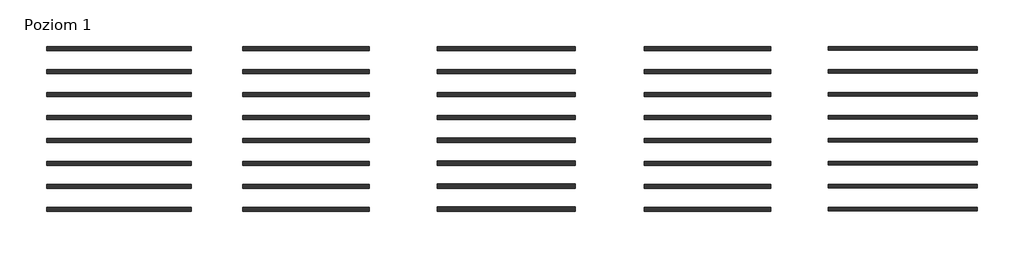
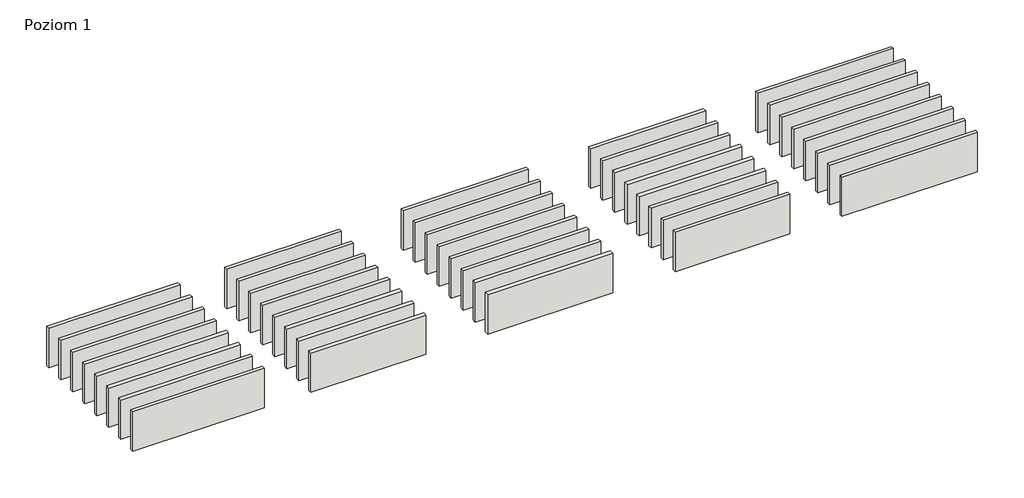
# One storey: 40 walls.
"""IFC4 building model written with IfcOpenShell, lengths in millimetres."""

from ifc_helpers import new_model, si_unit, origin, origin_with_axes, place, context, project, spatial, polyline, outline, extrude, element, save

model = new_model("IFC4")

# Units and contexts
model_context = context("Model", 3, world=origin())
ifc_project = project(units=[si_unit("LENGTHUNIT", "METRE", prefix="MILLI")], contexts=[model_context])

# Site, building, storey
site = spatial("IfcSite", under=ifc_project)
building = spatial("IfcBuilding", under=site)
storey = spatial("IfcBuildingStorey", under=building, Name="Poziom 1", Elevation=0.0)

# Walls
placement = place(None, origin())
element("IfcWall", 1, ObjectType="ISOVER.FW.Multimax30_0,030.BETON", at=placement, inside=storey, context=model_context, shape_type="SweptSolid", body=[
    extrude(outline(polyline([(11646.8241182, 200.8405793), (646.8241182, 200.8405793), (646.8241182, 553.8405793), (11646.8241182, 553.8405793), (11646.8241182, 200.8405793)])), origin_with_axes(), (0.0, 0.0, 1.0), 4000.0),
])
element("IfcWall", 2, ObjectType="ISOVER.FW.Multimax30_0,030.CERAM", at=placement, inside=storey, context=model_context, shape_type="SweptSolid", body=[
    extrude(outline(polyline([(29574.3183088, 195.8405793), (17574.3183088, 195.8405793), (17574.3183088, 558.8405793), (29574.3183088, 558.8405793), (29574.3183088, 195.8405793)])), origin_with_axes(), (0.0, 0.0, 1.0), 4000.0),
])
element("IfcWall", 3, ObjectType="ISOVER.FW.Multimax30_0,030.BETKOM", at=placement, inside=storey, context=model_context, shape_type="SweptSolid", body=[
    extrude(outline(polyline([(-3825.6816912, 200.8405793), (-16425.6816912, 200.8405793), (-16425.6816912, 553.8405793), (-3825.6816912, 553.8405793), (-3825.6816912, 200.8405793)])), origin_with_axes(), (0.0, 0.0, 1.0), 4000.0),
])
element("IfcWall", 4, ObjectType="ISOVER.FW.Multimax30_0,030.SILIKAT", at=placement, inside=storey, context=model_context, shape_type="SweptSolid", body=[
    extrude(outline(polyline([(46574.3183088, 200.8405793), (35574.3183088, 200.8405793), (35574.3183088, 553.8405793), (46574.3183088, 553.8405793), (46574.3183088, 200.8405793)])), origin_with_axes(), (0.0, 0.0, 1.0), 4000.0),
])
element("IfcWall", 5, ObjectType="ISOVER.FW.Multimax30_0,030.ŻELBET", at=placement, inside=storey, context=model_context, shape_type="SweptSolid", body=[
    extrude(outline(polyline([(64574.3183088, 220.8405793), (51574.3183088, 220.8405793), (51574.3183088, 533.8405793), (64574.3183088, 533.8405793), (64574.3183088, 220.8405793)])), origin_with_axes(), (0.0, 0.0, 1.0), 4000.0),
])
element("IfcWall", 6, ObjectType="ISOVER.FW.Panel-PłytaPlus_0,035.BETKOM", at=placement, inside=storey, context=model_context, shape_type="SweptSolid", body=[
    extrude(outline(polyline([(-3825.6816912, -1799.1594207), (-16425.6816912, -1799.1594207), (-16425.6816912, -1446.1594207), (-3825.6816912, -1446.1594207), (-3825.6816912, -1799.1594207)])), origin_with_axes(), (0.0, 0.0, 1.0), 4000.0),
])
element("IfcWall", 7, ObjectType="ISOVER.FW.Panel-PłytaPlus_0,035.BETON", at=placement, inside=storey, context=model_context, shape_type="SweptSolid", body=[
    extrude(outline(polyline([(11646.8241182, -1799.1594207), (646.8241182, -1799.1594207), (646.8241182, -1446.1594207), (11646.8241182, -1446.1594207), (11646.8241182, -1799.1594207)])), origin_with_axes(), (0.0, 0.0, 1.0), 4000.0),
])
element("IfcWall", 8, ObjectType="ISOVER.FW.Panel-PłytaPlus_0,035.CERAM", at=placement, inside=storey, context=model_context, shape_type="SweptSolid", body=[
    extrude(outline(polyline([(29574.3183088, -1804.1594207), (17574.3183088, -1804.1594207), (17574.3183088, -1441.1594207), (29574.3183088, -1441.1594207), (29574.3183088, -1804.1594207)])), origin_with_axes(), (0.0, 0.0, 1.0), 4000.0),
])
element("IfcWall", 9, ObjectType="ISOVER.FW.Panel-PłytaPlus_0,035.SILIKAT", at=placement, inside=storey, context=model_context, shape_type="SweptSolid", body=[
    extrude(outline(polyline([(46574.3183088, -1799.1594207), (35574.3183088, -1799.1594207), (35574.3183088, -1446.1594207), (46574.3183088, -1446.1594207), (46574.3183088, -1799.1594207)])), origin_with_axes(), (0.0, 0.0, 1.0), 4000.0),
])
element("IfcWall", 10, ObjectType="ISOVER.FW.Panel-PłytaPlus_0,035.ŻELBET", at=placement, inside=storey, context=model_context, shape_type="SweptSolid", body=[
    extrude(outline(polyline([(64574.3183088, -1779.1594207), (51574.3183088, -1779.1594207), (51574.3183088, -1466.1594207), (64574.3183088, -1466.1594207), (64574.3183088, -1779.1594207)])), origin_with_axes(), (0.0, 0.0, 1.0), 4000.0),
])
element("IfcWall", 11, ObjectType="ISOVER.FW.PoltermMax_0,038.BETKOM", at=placement, inside=storey, context=model_context, shape_type="SweptSolid", body=[
    extrude(outline(polyline([(-3825.6816912, -3799.1594207), (-16425.6816912, -3799.1594207), (-16425.6816912, -3446.1594207), (-3825.6816912, -3446.1594207), (-3825.6816912, -3799.1594207)])), origin_with_axes(), (0.0, 0.0, 1.0), 4000.0),
])
element("IfcWall", 12, ObjectType="ISOVER.FW.PoltermMax_0,038.BETON", at=placement, inside=storey, context=model_context, shape_type="SweptSolid", body=[
    extrude(outline(polyline([(11646.8241182, -3799.1594207), (646.8241182, -3799.1594207), (646.8241182, -3446.1594207), (11646.8241182, -3446.1594207), (11646.8241182, -3799.1594207)])), origin_with_axes(), (0.0, 0.0, 1.0), 4000.0),
])
element("IfcWall", 13, ObjectType="ISOVER.FW.PoltermMax_0,038.CERAM", at=placement, inside=storey, context=model_context, shape_type="SweptSolid", body=[
    extrude(outline(polyline([(29574.3183088, -3804.1594207), (17574.3183088, -3804.1594207), (17574.3183088, -3441.1594207), (29574.3183088, -3441.1594207), (29574.3183088, -3804.1594207)])), origin_with_axes(), (0.0, 0.0, 1.0), 4000.0),
])
element("IfcWall", 14, ObjectType="ISOVER.FW.PoltermMax_0,038.SILIKAT", at=placement, inside=storey, context=model_context, shape_type="SweptSolid", body=[
    extrude(outline(polyline([(46574.3183088, -3799.1594207), (35574.3183088, -3799.1594207), (35574.3183088, -3446.1594207), (46574.3183088, -3446.1594207), (46574.3183088, -3799.1594207)])), origin_with_axes(), (0.0, 0.0, 1.0), 4000.0),
])
element("IfcWall", 15, ObjectType="ISOVER.FW.PoltermMax_0,038.ŻELBET", at=placement, inside=storey, context=model_context, shape_type="SweptSolid", body=[
    extrude(outline(polyline([(64574.3183088, -3779.1594207), (51574.3183088, -3779.1594207), (51574.3183088, -3466.1594207), (64574.3183088, -3466.1594207), (64574.3183088, -3779.1594207)])), origin_with_axes(), (0.0, 0.0, 1.0), 4000.0),
])
element("IfcWall", 16, ObjectType="ISOVER.FW.PoltermMaxPlus_0,035.BETKOM", at=placement, inside=storey, context=model_context, shape_type="SweptSolid", body=[
    extrude(outline(polyline([(-3825.6816912, -5799.1594207), (-16425.6816912, -5799.1594207), (-16425.6816912, -5446.1594207), (-3825.6816912, -5446.1594207), (-3825.6816912, -5799.1594207)])), origin_with_axes(), (0.0, 0.0, 1.0), 4000.0),
])
element("IfcWall", 17, ObjectType="ISOVER.FW.PoltermMaxPlus_0,035.BETON", at=placement, inside=storey, context=model_context, shape_type="SweptSolid", body=[
    extrude(outline(polyline([(11646.8241182, -5799.1594207), (646.8241182, -5799.1594207), (646.8241182, -5446.1594207), (11646.8241182, -5446.1594207), (11646.8241182, -5799.1594207)])), origin_with_axes(), (0.0, 0.0, 1.0), 4000.0),
])
element("IfcWall", 18, ObjectType="ISOVER.FW.PoltermMaxPlus_0,035.CERAM", at=placement, inside=storey, context=model_context, shape_type="SweptSolid", body=[
    extrude(outline(polyline([(29574.3183088, -5804.1594207), (17574.3183088, -5804.1594207), (17574.3183088, -5441.1594207), (29574.3183088, -5441.1594207), (29574.3183088, -5804.1594207)])), origin_with_axes(), (0.0, 0.0, 1.0), 4000.0),
])
element("IfcWall", 19, ObjectType="ISOVER.FW.PoltermMaxPlus_0,035.SILIKAT", at=placement, inside=storey, context=model_context, shape_type="SweptSolid", body=[
    extrude(outline(polyline([(46574.3183088, -5799.1594207), (35574.3183088, -5799.1594207), (35574.3183088, -5446.1594207), (46574.3183088, -5446.1594207), (46574.3183088, -5799.1594207)])), origin_with_axes(), (0.0, 0.0, 1.0), 4000.0),
])
element("IfcWall", 20, ObjectType="ISOVER.FW.PoltermMaxPlus_0,035.ŻELBET", at=placement, inside=storey, context=model_context, shape_type="SweptSolid", body=[
    extrude(outline(polyline([(64574.3183088, -5779.1594207), (51574.3183088, -5779.1594207), (51574.3183088, -5466.1594207), (64574.3183088, -5466.1594207), (64574.3183088, -5779.1594207)])), origin_with_axes(), (0.0, 0.0, 1.0), 4000.0),
])
element("IfcWall", 21, ObjectType="ISOVER.FW.Super-Vent_0,032.BETKOM", at=placement, inside=storey, context=model_context, shape_type="SweptSolid", body=[
    extrude(outline(polyline([(-3825.6816912, -7799.1594207), (-16425.6816912, -7799.1594207), (-16425.6816912, -7446.1594207), (-3825.6816912, -7446.1594207), (-3825.6816912, -7799.1594207)])), origin_with_axes(), (0.0, 0.0, 1.0), 4000.0),
])
element("IfcWall", 22, ObjectType="ISOVER.FW.Super-Vent_0,032.BETON", at=placement, inside=storey, context=model_context, shape_type="SweptSolid", body=[
    extrude(outline(polyline([(11646.8241182, -7799.1594207), (646.8241182, -7799.1594207), (646.8241182, -7446.1594207), (11646.8241182, -7446.1594207), (11646.8241182, -7799.1594207)])), origin_with_axes(), (0.0, 0.0, 1.0), 4000.0),
])
element("IfcWall", 23, ObjectType="ISOVER.FW.Super-Vent_0,032.CERAM", at=placement, inside=storey, context=model_context, shape_type="SweptSolid", body=[
    extrude(outline(polyline([(29574.3183088, -7804.1594207), (17574.3183088, -7804.1594207), (17574.3183088, -7441.1594207), (29574.3183088, -7441.1594207), (29574.3183088, -7804.1594207)])), origin_with_axes(), (0.0, 0.0, 1.0), 4000.0),
])
element("IfcWall", 24, ObjectType="ISOVER.FW.Super-Vent_0,032.SILIKAT", at=placement, inside=storey, context=model_context, shape_type="SweptSolid", body=[
    extrude(outline(polyline([(46574.3183088, -7799.1594207), (35574.3183088, -7799.1594207), (35574.3183088, -7446.1594207), (46574.3183088, -7446.1594207), (46574.3183088, -7799.1594207)])), origin_with_axes(), (0.0, 0.0, 1.0), 4000.0),
])
element("IfcWall", 25, ObjectType="ISOVER.FW.Super-Vent_0,032.ŻELBET", at=placement, inside=storey, context=model_context, shape_type="SweptSolid", body=[
    extrude(outline(polyline([(64574.3183088, -7779.1594207), (51574.3183088, -7779.1594207), (51574.3183088, -7466.1594207), (64574.3183088, -7466.1594207), (64574.3183088, -7779.1594207)])), origin_with_axes(), (0.0, 0.0, 1.0), 4000.0),
])
element("IfcWall", 26, ObjectType="ISOVER.FW.Super-VentPlus_0,031.BETKOM", at=placement, inside=storey, context=model_context, shape_type="SweptSolid", body=[
    extrude(outline(polyline([(-3825.6816912, -9799.1594207), (-16425.6816912, -9799.1594207), (-16425.6816912, -9446.1594207), (-3825.6816912, -9446.1594207), (-3825.6816912, -9799.1594207)])), origin_with_axes(), (0.0, 0.0, 1.0), 4000.0),
])
element("IfcWall", 27, ObjectType="ISOVER.FW.Super-VentPlus_0,031.BETON", at=placement, inside=storey, context=model_context, shape_type="SweptSolid", body=[
    extrude(outline(polyline([(11646.8241182, -9799.1594207), (646.8241182, -9799.1594207), (646.8241182, -9446.1594207), (11646.8241182, -9446.1594207), (11646.8241182, -9799.1594207)])), origin_with_axes(), (0.0, 0.0, 1.0), 4000.0),
])
element("IfcWall", 28, ObjectType="ISOVER.FW.Super-VentPlus_0,031.CERAM", at=placement, inside=storey, context=model_context, shape_type="SweptSolid", body=[
    extrude(outline(polyline([(29574.3183088, -9804.1594207), (17574.3183088, -9804.1594207), (17574.3183088, -9441.1594207), (29574.3183088, -9441.1594207), (29574.3183088, -9804.1594207)])), origin_with_axes(), (0.0, 0.0, 1.0), 4000.0),
])
element("IfcWall", 29, ObjectType="ISOVER.FW.Super-VentPlus_0,031.SILIKAT", at=placement, inside=storey, context=model_context, shape_type="SweptSolid", body=[
    extrude(outline(polyline([(46574.3183088, -9799.1594207), (35574.3183088, -9799.1594207), (35574.3183088, -9446.1594207), (46574.3183088, -9446.1594207), (46574.3183088, -9799.1594207)])), origin_with_axes(), (0.0, 0.0, 1.0), 4000.0),
])
element("IfcWall", 30, ObjectType="ISOVER.FW.Super-VentPlus_0,031.ŻELBET", at=placement, inside=storey, context=model_context, shape_type="SweptSolid", body=[
    extrude(outline(polyline([(64574.3183088, -9779.1594207), (51574.3183088, -9779.1594207), (51574.3183088, -9466.1594207), (64574.3183088, -9466.1594207), (64574.3183088, -9779.1594207)])), origin_with_axes(), (0.0, 0.0, 1.0), 4000.0),
])
element("IfcWall", 31, ObjectType="ISOVER.FW.Ventiterm_0,038.BETKOM", at=placement, inside=storey, context=model_context, shape_type="SweptSolid", body=[
    extrude(outline(polyline([(-3825.6816912, -11799.1594207), (-16425.6816912, -11799.1594207), (-16425.6816912, -11446.1594207), (-3825.6816912, -11446.1594207), (-3825.6816912, -11799.1594207)])), origin_with_axes(), (0.0, 0.0, 1.0), 4000.0),
])
element("IfcWall", 32, ObjectType="ISOVER.FW.Ventiterm_0,038.BETON", at=placement, inside=storey, context=model_context, shape_type="SweptSolid", body=[
    extrude(outline(polyline([(11646.8241182, -11799.1594207), (646.8241182, -11799.1594207), (646.8241182, -11446.1594207), (11646.8241182, -11446.1594207), (11646.8241182, -11799.1594207)])), origin_with_axes(), (0.0, 0.0, 1.0), 4000.0),
])
element("IfcWall", 33, ObjectType="ISOVER.FW.Ventiterm_0,038.CERAM", at=placement, inside=storey, context=model_context, shape_type="SweptSolid", body=[
    extrude(outline(polyline([(29574.3183088, -11804.1594207), (17574.3183088, -11804.1594207), (17574.3183088, -11441.1594207), (29574.3183088, -11441.1594207), (29574.3183088, -11804.1594207)])), origin_with_axes(), (0.0, 0.0, 1.0), 4000.0),
])
element("IfcWall", 34, ObjectType="ISOVER.FW.Ventiterm_0,038.SILIKAT", at=placement, inside=storey, context=model_context, shape_type="SweptSolid", body=[
    extrude(outline(polyline([(46574.3183088, -11799.1594207), (35574.3183088, -11799.1594207), (35574.3183088, -11446.1594207), (46574.3183088, -11446.1594207), (46574.3183088, -11799.1594207)])), origin_with_axes(), (0.0, 0.0, 1.0), 4000.0),
])
element("IfcWall", 35, ObjectType="ISOVER.FW.Ventiterm_0,038.ŻELBET", at=placement, inside=storey, context=model_context, shape_type="SweptSolid", body=[
    extrude(outline(polyline([(64574.3183088, -11779.1594207), (51574.3183088, -11779.1594207), (51574.3183088, -11466.1594207), (64574.3183088, -11466.1594207), (64574.3183088, -11779.1594207)])), origin_with_axes(), (0.0, 0.0, 1.0), 4000.0),
])
element("IfcWall", 36, ObjectType="ISOVER.FW.VentitermPlus_0,036.BETKOM", at=placement, inside=storey, context=model_context, shape_type="SweptSolid", body=[
    extrude(outline(polyline([(-3825.6816912, -13799.1594207), (-16425.6816912, -13799.1594207), (-16425.6816912, -13446.1594207), (-3825.6816912, -13446.1594207), (-3825.6816912, -13799.1594207)])), origin_with_axes(), (0.0, 0.0, 1.0), 4000.0),
])
element("IfcWall", 37, ObjectType="ISOVER.FW.VentitermPlus_0,036.BETON", at=placement, inside=storey, context=model_context, shape_type="SweptSolid", body=[
    extrude(outline(polyline([(11646.8241182, -13799.1594207), (646.8241182, -13799.1594207), (646.8241182, -13446.1594207), (11646.8241182, -13446.1594207), (11646.8241182, -13799.1594207)])), origin_with_axes(), (0.0, 0.0, 1.0), 4000.0),
])
element("IfcWall", 38, ObjectType="ISOVER.FW.VentitermPlus_0,036.CERAM", at=placement, inside=storey, context=model_context, shape_type="SweptSolid", body=[
    extrude(outline(polyline([(29574.3183088, -13804.1594207), (17574.3183088, -13804.1594207), (17574.3183088, -13441.1594207), (29574.3183088, -13441.1594207), (29574.3183088, -13804.1594207)])), origin_with_axes(), (0.0, 0.0, 1.0), 4000.0),
])
element("IfcWall", 39, ObjectType="ISOVER.FW.VentitermPlus_0,036.SILIKAT", at=placement, inside=storey, context=model_context, shape_type="SweptSolid", body=[
    extrude(outline(polyline([(46574.3183088, -13799.1594207), (35574.3183088, -13799.1594207), (35574.3183088, -13446.1594207), (46574.3183088, -13446.1594207), (46574.3183088, -13799.1594207)])), origin_with_axes(), (0.0, 0.0, 1.0), 4000.0),
])
element("IfcWall", 40, ObjectType="ISOVER.FW.VentitermPlus_0,036.ŻELBET", at=placement, inside=storey, context=model_context, shape_type="SweptSolid", body=[
    extrude(outline(polyline([(64574.3183088, -13779.1594207), (51574.3183088, -13779.1594207), (51574.3183088, -13466.1594207), (64574.3183088, -13466.1594207), (64574.3183088, -13779.1594207)])), origin_with_axes(), (0.0, 0.0, 1.0), 4000.0),
])

save(model, "model.ifc")
